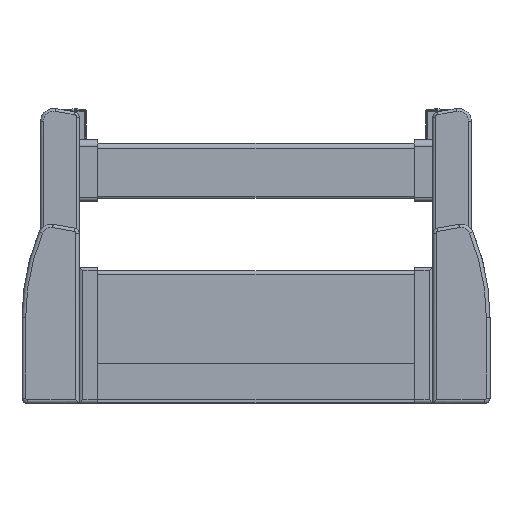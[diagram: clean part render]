
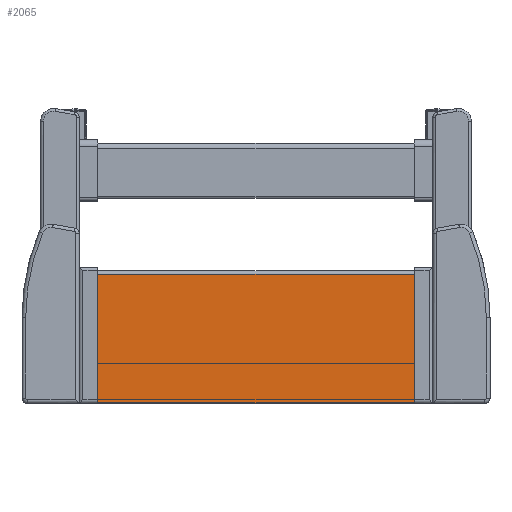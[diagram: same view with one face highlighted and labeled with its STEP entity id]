
A CAD part, top view. The second image highlights one B-rep face of the part: STEP entity #2065.
In plain terms, the highlighted planar face has unit normal (0, 0, 1).
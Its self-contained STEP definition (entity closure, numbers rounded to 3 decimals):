
#1805 = VERTEX_POINT ( 'NONE', #4814 ) ;
#1886 = EDGE_CURVE ( 'NONE', #1887, #1805, #5081, .T. ) ;
#1887 = VERTEX_POINT ( 'NONE', #5077 ) ;
#1987 = ORIENTED_EDGE ( 'NONE', *, *, #1988, .F. ) ;
#1988 = EDGE_CURVE ( 'NONE', #2197, #2003, #5195, .T. ) ;
#2000 = EDGE_CURVE ( 'NONE', #1805, #2003, #5365, .T. ) ;
#2002 = ORIENTED_EDGE ( 'NONE', *, *, #2000, .T. ) ;
#2003 = VERTEX_POINT ( 'NONE', #5358 ) ;
#2065 = ADVANCED_FACE ( 'NONE', ( #5317 ), #5315, .F. ) ;
#2066 = EDGE_LOOP ( 'NONE', ( #2067, #2068, #2002, #1987 ) ) ;
#2067 = ORIENTED_EDGE ( 'NONE', *, *, #2196, .F. ) ;
#2068 = ORIENTED_EDGE ( 'NONE', *, *, #1886, .T. ) ;
#2196 = EDGE_CURVE ( 'NONE', #1887, #2197, #5857, .T. ) ;
#2197 = VERTEX_POINT ( 'NONE', #5853 ) ;
#4814 = CARTESIAN_POINT ( 'NONE',  ( 85.8, -23., 1.4 ) ) ;
#5077 = CARTESIAN_POINT ( 'NONE',  ( 85.8, -92.5, 1.4 ) ) ;
#5078 = DIRECTION ( 'NONE',  ( 0., 1., 0. ) ) ;
#5079 = VECTOR ( 'NONE', #5078, 1000. ) ;
#5080 = CARTESIAN_POINT ( 'NONE',  ( 85.8, -92.5, 1.4 ) ) ;
#5081 = LINE ( 'NONE', #5080, #5079 ) ;
#5191 = DIRECTION ( 'NONE',  ( 0., 1., 0. ) ) ;
#5192 = VECTOR ( 'NONE', #5191, 1000. ) ;
#5193 = CARTESIAN_POINT ( 'NONE',  ( -85.8, -92.5, 1.4 ) ) ;
#5195 = LINE ( 'NONE', #5193, #5192 ) ;
#5311 = DIRECTION ( 'NONE',  ( 0., 1., 0. ) ) ;
#5312 = DIRECTION ( 'NONE',  ( 0., 0., -1. ) ) ;
#5313 = CARTESIAN_POINT ( 'NONE',  ( 159.556, -92.5, 1.4 ) ) ;
#5314 = AXIS2_PLACEMENT_3D ( 'NONE', #5313, #5312, #5311 ) ;
#5315 = PLANE ( 'NONE',  #5314 ) ;
#5317 = FACE_OUTER_BOUND ( 'NONE', #2066, .T. ) ;
#5358 = CARTESIAN_POINT ( 'NONE',  ( -85.8, -23., 1.4 ) ) ;
#5359 = DIRECTION ( 'NONE',  ( -1., 0., 0. ) ) ;
#5360 = VECTOR ( 'NONE', #5359, 1000. ) ;
#5361 = CARTESIAN_POINT ( 'NONE',  ( 159.556, -23., 1.4 ) ) ;
#5365 = LINE ( 'NONE', #5361, #5360 ) ;
#5853 = CARTESIAN_POINT ( 'NONE',  ( -85.8, -92.5, 1.4 ) ) ;
#5854 = DIRECTION ( 'NONE',  ( -1., 0., 0. ) ) ;
#5855 = VECTOR ( 'NONE', #5854, 1000. ) ;
#5856 = CARTESIAN_POINT ( 'NONE',  ( 159.556, -92.5, 1.4 ) ) ;
#5857 = LINE ( 'NONE', #5856, #5855 ) ;
